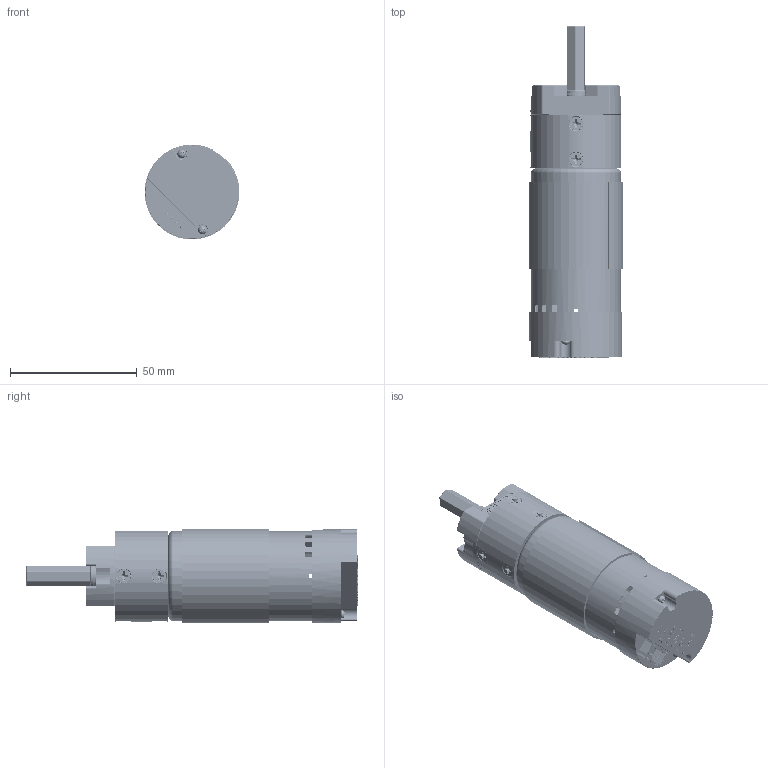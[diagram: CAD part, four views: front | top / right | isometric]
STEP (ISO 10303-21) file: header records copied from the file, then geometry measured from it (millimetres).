
FILE_DESCRIPTION (( 'STEP AP203' ), '1' );
FILE_NAME ('5203-2402-0003 assembly simple.STEP', '2021-01-06T21:14:11', ( '' ), ( '' ), 'SwSTEP 2.0', 'SolidWorks 2016', '' );
FILE_SCHEMA (( 'CONFIG_CONTROL_DESIGN' ));
Length unit declared in the file: millimetre
Products named in the file (17): 5103 Gearbox Base; 5103 Gearbox Shaft (23.5mm Length, Simple); 5000-0002-0001 body; 5103 Gearbox Barrel Screw (M3 x 8mm length Flat Head)_92010A118; 5103 Gearbox Base Mounting Screw M3 x 5mm length SHCS)_91290A110; 5103 Gearbox Barrel (1 stage, simple)_Gear Blank; 5000-0001-0001 motor shield; 5000-0001-0001 encoder cap screw_90190A075; 5103-2402-0003 Simple; 5103 Gearbox Snap Ring; 5103 Gearbox Bearing; 5103 Gearbox Face; 5000-0001-0001 encoder pins_MalePinHeader_1X2; 5000-0002-0117 motor shaft; 5000-0001-0001 encoder pin housing; 5203-2402-0003 assembly simple; 5000-0001-0001 encoder cap
Assembly tree (29 placements, depth 3):
  5203-2402-0003 assembly simple
    5000-0002-0001 body
    5000-0001-0001 encoder cap
    5000-0001-0001 encoder cap screw_90190A075  x2
    5000-0001-0001 encoder pin housing
    5000-0001-0001 encoder pins_MalePinHeader_1X2  x2
    5000-0001-0001 motor shield
    5000-0002-0117 motor shaft
    5103-2402-0003 Simple
      5103 Gearbox Base
      5103 Gearbox Barrel (1 stage, simple)_Gear Blank
      5103 Gearbox Barrel Screw (M3 x 8mm length Flat Head)_92010A118  x8
      5103 Gearbox Face
      5103 Gearbox Bearing  x2
      5103 Gearbox Shaft (23.5mm Length, Simple)
      5103 Gearbox Snap Ring
    5103 Gearbox Base Mounting Screw M3 x 5mm length SHCS)_91290A110  x4
Bounding box: 37.46 x 131.17 x 37.46 mm (x, y, z)
Volume: 50752.7 mm3; surface area: 48742.1 mm2
Topology: 66 solids, 66 shells, 4682 faces, 12165 edges, 7692 vertices
Faces by surface type: cylinder 2231, plane 918, bspline 681, cone 435, torus 251, sphere 166
Entity records: 149689 total; most frequent: CARTESIAN_POINT 83333, ORIENTED_EDGE 15760, DIRECTION 10977, EDGE_CURVE 7880, VERTEX_POINT 5118, AXIS2_PLACEMENT_3D 3856, LINE 3265, VECTOR 3265
